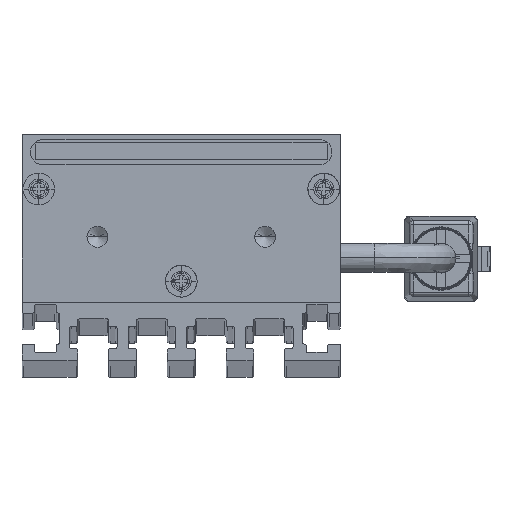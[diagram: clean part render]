
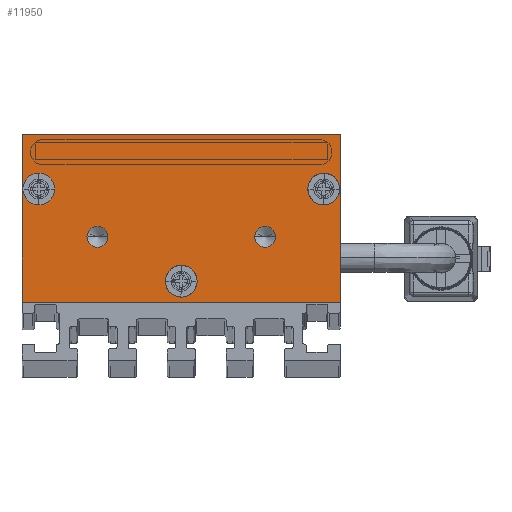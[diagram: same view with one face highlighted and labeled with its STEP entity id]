
A CAD part, top view. The second image highlights one B-rep face of the part: STEP entity #11950.
In plain terms, the highlighted planar face has unit normal (0, 0, 1) as drawn and (0, 0, -1) by its records, which use the part's own axes.
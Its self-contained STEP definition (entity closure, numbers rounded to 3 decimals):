
#245 = ORIENTED_EDGE ( 'NONE', *, *, #15260, .F. ) ;
#266 = VERTEX_POINT ( 'NONE', #8219 ) ;
#285 = CARTESIAN_POINT ( 'NONE',  ( -11.25, 7.8, -2.5 ) ) ;
#389 = LINE ( 'NONE', #15747, #1356 ) ;
#391 = ORIENTED_EDGE ( 'NONE', *, *, #2455, .F. ) ;
#440 = CARTESIAN_POINT ( 'NONE',  ( 10., 7.8, -2.5 ) ) ;
#502 = CIRCLE ( 'NONE', #13209, 1.9 ) ;
#533 = ORIENTED_EDGE ( 'NONE', *, *, #7452, .F. ) ;
#567 = CIRCLE ( 'NONE', #11936, 1.9 ) ;
#634 = DIRECTION ( 'NONE',  ( 0., 0., 1. ) ) ;
#649 = EDGE_CURVE ( 'NONE', #266, #15346, #567, .T. ) ;
#690 = CARTESIAN_POINT ( 'NONE',  ( -19., 20., -2.5 ) ) ;
#852 = CARTESIAN_POINT ( 'NONE',  ( 17., 13.5, -2.5 ) ) ;
#1356 = VECTOR ( 'NONE', #6674, 1000. ) ;
#1759 = DIRECTION ( 'NONE',  ( -1., 0., 0. ) ) ;
#1844 = EDGE_CURVE ( 'NONE', #8514, #5329, #5717, .T. ) ;
#2104 = FACE_BOUND ( 'NONE', #7031, .T. ) ;
#2136 = CIRCLE ( 'NONE', #6898, 1.9 ) ;
#2151 = ORIENTED_EDGE ( 'NONE', *, *, #1844, .F. ) ;
#2199 = DIRECTION ( 'NONE',  ( -1., 0., 0. ) ) ;
#2363 = CIRCLE ( 'NONE', #4727, 1.25 ) ;
#2396 = ORIENTED_EDGE ( 'NONE', *, *, #10332, .F. ) ;
#2428 = AXIS2_PLACEMENT_3D ( 'NONE', #2561, #6452, #10430 ) ;
#2455 = EDGE_CURVE ( 'NONE', #6748, #5830, #2136, .T. ) ;
#2561 = CARTESIAN_POINT ( 'NONE',  ( 0., 2.5, -2.5 ) ) ;
#2603 = CARTESIAN_POINT ( 'NONE',  ( 10., 7.8, -2.5 ) ) ;
#2803 = CARTESIAN_POINT ( 'NONE',  ( -17., 13.5, -2.5 ) ) ;
#2845 = VERTEX_POINT ( 'NONE', #11508 ) ;
#3152 = CARTESIAN_POINT ( 'NONE',  ( 19., 20., -2.5 ) ) ;
#3263 = DIRECTION ( 'NONE',  ( -1., 0., 0. ) ) ;
#3342 = DIRECTION ( 'NONE',  ( 0., -1., 0. ) ) ;
#3385 = AXIS2_PLACEMENT_3D ( 'NONE', #2603, #10063, #15316 ) ;
#4498 = FACE_BOUND ( 'NONE', #6939, .T. ) ;
#4600 = EDGE_CURVE ( 'NONE', #5329, #12344, #389, .T. ) ;
#4626 = ORIENTED_EDGE ( 'NONE', *, *, #12035, .F. ) ;
#4654 = FACE_BOUND ( 'NONE', #16115, .T. ) ;
#4711 = CIRCLE ( 'NONE', #5255, 1.9 ) ;
#4727 = AXIS2_PLACEMENT_3D ( 'NONE', #13572, #13642, #2199 ) ;
#5255 = AXIS2_PLACEMENT_3D ( 'NONE', #8952, #10202, #11535 ) ;
#5288 = EDGE_CURVE ( 'NONE', #15346, #266, #9320, .T. ) ;
#5329 = VERTEX_POINT ( 'NONE', #14024 ) ;
#5381 = EDGE_CURVE ( 'NONE', #5830, #6748, #5606, .T. ) ;
#5606 = CIRCLE ( 'NONE', #6400, 1.9 ) ;
#5716 = DIRECTION ( 'NONE',  ( 0., 0., -1. ) ) ;
#5717 = LINE ( 'NONE', #3152, #6350 ) ;
#5740 = DIRECTION ( 'NONE',  ( 1., 0., 0. ) ) ;
#5830 = VERTEX_POINT ( 'NONE', #8828 ) ;
#5882 = DIRECTION ( 'NONE',  ( 0., 0., -1. ) ) ;
#5886 = VERTEX_POINT ( 'NONE', #15827 ) ;
#6078 = CARTESIAN_POINT ( 'NONE',  ( -19., 0., -2.5 ) ) ;
#6157 = CARTESIAN_POINT ( 'NONE',  ( 15.1, 13.5, -2.5 ) ) ;
#6162 = EDGE_CURVE ( 'NONE', #10339, #5886, #16393, .T. ) ;
#6350 = VECTOR ( 'NONE', #8281, 1000. ) ;
#6394 = EDGE_CURVE ( 'NONE', #8675, #2845, #502, .T. ) ;
#6400 = AXIS2_PLACEMENT_3D ( 'NONE', #2803, #12931, #6669 ) ;
#6452 = DIRECTION ( 'NONE',  ( 0., 0., -1. ) ) ;
#6469 = EDGE_CURVE ( 'NONE', #10419, #8514, #10395, .T. ) ;
#6479 = CIRCLE ( 'NONE', #11786, 1.25 ) ;
#6666 = ORIENTED_EDGE ( 'NONE', *, *, #9480, .F. ) ;
#6669 = DIRECTION ( 'NONE',  ( -1., 0., 0. ) ) ;
#6674 = DIRECTION ( 'NONE',  ( -1., 0., 0. ) ) ;
#6700 = ORIENTED_EDGE ( 'NONE', *, *, #6162, .F. ) ;
#6748 = VERTEX_POINT ( 'NONE', #9629 ) ;
#6898 = AXIS2_PLACEMENT_3D ( 'NONE', #7522, #16357, #8856 ) ;
#6939 = EDGE_LOOP ( 'NONE', ( #533, #4626 ) ) ;
#7031 = EDGE_LOOP ( 'NONE', ( #6700, #6666 ) ) ;
#7063 = FACE_BOUND ( 'NONE', #12896, .T. ) ;
#7151 = CARTESIAN_POINT ( 'NONE',  ( 0., 0., -2.5 ) ) ;
#7452 = EDGE_CURVE ( 'NONE', #11036, #10183, #2363, .T. ) ;
#7486 = ORIENTED_EDGE ( 'NONE', *, *, #5288, .F. ) ;
#7522 = CARTESIAN_POINT ( 'NONE',  ( -17., 13.5, -2.5 ) ) ;
#7809 = AXIS2_PLACEMENT_3D ( 'NONE', #8387, #10727, #3263 ) ;
#8114 = DIRECTION ( 'NONE',  ( 0., 0., -1. ) ) ;
#8219 = CARTESIAN_POINT ( 'NONE',  ( -1.9, 2.5, -2.5 ) ) ;
#8281 = DIRECTION ( 'NONE',  ( 0., 1., 0. ) ) ;
#8387 = CARTESIAN_POINT ( 'NONE',  ( -10., 7.8, -2.5 ) ) ;
#8397 = ORIENTED_EDGE ( 'NONE', *, *, #6469, .F. ) ;
#8514 = VERTEX_POINT ( 'NONE', #9027 ) ;
#8675 = VERTEX_POINT ( 'NONE', #6157 ) ;
#8682 = VECTOR ( 'NONE', #8808, 1000. ) ;
#8722 = CARTESIAN_POINT ( 'NONE',  ( -19., 20., -2.5 ) ) ;
#8808 = DIRECTION ( 'NONE',  ( 1., 0., 0. ) ) ;
#8828 = CARTESIAN_POINT ( 'NONE',  ( -18.9, 13.5, -2.5 ) ) ;
#8856 = DIRECTION ( 'NONE',  ( -1., 0., 0. ) ) ;
#8952 = CARTESIAN_POINT ( 'NONE',  ( 17., 13.5, -2.5 ) ) ;
#9027 = CARTESIAN_POINT ( 'NONE',  ( 19., 0., -2.5 ) ) ;
#9320 = CIRCLE ( 'NONE', #2428, 1.9 ) ;
#9480 = EDGE_CURVE ( 'NONE', #5886, #10339, #6479, .T. ) ;
#9564 = FACE_OUTER_BOUND ( 'NONE', #15662, .T. ) ;
#9629 = CARTESIAN_POINT ( 'NONE',  ( -15.1, 13.5, -2.5 ) ) ;
#10063 = DIRECTION ( 'NONE',  ( 0., 0., -1. ) ) ;
#10183 = VERTEX_POINT ( 'NONE', #11328 ) ;
#10202 = DIRECTION ( 'NONE',  ( 0., 0., -1. ) ) ;
#10238 = ORIENTED_EDGE ( 'NONE', *, *, #6394, .F. ) ;
#10332 = EDGE_CURVE ( 'NONE', #12344, #10419, #16060, .T. ) ;
#10339 = VERTEX_POINT ( 'NONE', #14963 ) ;
#10395 = LINE ( 'NONE', #15482, #8682 ) ;
#10419 = VERTEX_POINT ( 'NONE', #6078 ) ;
#10430 = DIRECTION ( 'NONE',  ( -1., 0., 0. ) ) ;
#10727 = DIRECTION ( 'NONE',  ( 0., 0., -1. ) ) ;
#10949 = DIRECTION ( 'NONE',  ( -1., 0., 0. ) ) ;
#11036 = VERTEX_POINT ( 'NONE', #285 ) ;
#11328 = CARTESIAN_POINT ( 'NONE',  ( -8.75, 7.8, -2.5 ) ) ;
#11508 = CARTESIAN_POINT ( 'NONE',  ( 18.9, 13.5, -2.5 ) ) ;
#11535 = DIRECTION ( 'NONE',  ( -1., 0., 0. ) ) ;
#11786 = AXIS2_PLACEMENT_3D ( 'NONE', #440, #5716, #14703 ) ;
#11936 = AXIS2_PLACEMENT_3D ( 'NONE', #15623, #8114, #1759 ) ;
#11950 = ADVANCED_FACE ( 'NONE', ( #4654, #14416, #7063, #2104, #4498, #9564 ), #14656, .F. ) ;
#12011 = ORIENTED_EDGE ( 'NONE', *, *, #4600, .F. ) ;
#12035 = EDGE_CURVE ( 'NONE', #10183, #11036, #14981, .T. ) ;
#12344 = VERTEX_POINT ( 'NONE', #690 ) ;
#12896 = EDGE_LOOP ( 'NONE', ( #16390, #391 ) ) ;
#12931 = DIRECTION ( 'NONE',  ( 0., 0., -1. ) ) ;
#13146 = VECTOR ( 'NONE', #3342, 1000. ) ;
#13209 = AXIS2_PLACEMENT_3D ( 'NONE', #852, #5882, #10949 ) ;
#13572 = CARTESIAN_POINT ( 'NONE',  ( -10., 7.8, -2.5 ) ) ;
#13642 = DIRECTION ( 'NONE',  ( 0., 0., -1. ) ) ;
#14024 = CARTESIAN_POINT ( 'NONE',  ( 19., 20., -2.5 ) ) ;
#14416 = FACE_BOUND ( 'NONE', #14486, .T. ) ;
#14486 = EDGE_LOOP ( 'NONE', ( #15423, #7486 ) ) ;
#14656 = PLANE ( 'NONE',  #14995 ) ;
#14703 = DIRECTION ( 'NONE',  ( -1., 0., 0. ) ) ;
#14963 = CARTESIAN_POINT ( 'NONE',  ( 8.75, 7.8, -2.5 ) ) ;
#14981 = CIRCLE ( 'NONE', #7809, 1.25 ) ;
#14995 = AXIS2_PLACEMENT_3D ( 'NONE', #7151, #634, #5740 ) ;
#15030 = CARTESIAN_POINT ( 'NONE',  ( 1.9, 2.5, -2.5 ) ) ;
#15260 = EDGE_CURVE ( 'NONE', #2845, #8675, #4711, .T. ) ;
#15316 = DIRECTION ( 'NONE',  ( -1., 0., 0. ) ) ;
#15346 = VERTEX_POINT ( 'NONE', #15030 ) ;
#15423 = ORIENTED_EDGE ( 'NONE', *, *, #649, .F. ) ;
#15482 = CARTESIAN_POINT ( 'NONE',  ( -19., 0., -2.5 ) ) ;
#15623 = CARTESIAN_POINT ( 'NONE',  ( 0., 2.5, -2.5 ) ) ;
#15662 = EDGE_LOOP ( 'NONE', ( #2396, #12011, #2151, #8397 ) ) ;
#15747 = CARTESIAN_POINT ( 'NONE',  ( -19., 20., -2.5 ) ) ;
#15827 = CARTESIAN_POINT ( 'NONE',  ( 11.25, 7.8, -2.5 ) ) ;
#16060 = LINE ( 'NONE', #8722, #13146 ) ;
#16115 = EDGE_LOOP ( 'NONE', ( #10238, #245 ) ) ;
#16357 = DIRECTION ( 'NONE',  ( 0., 0., -1. ) ) ;
#16390 = ORIENTED_EDGE ( 'NONE', *, *, #5381, .F. ) ;
#16393 = CIRCLE ( 'NONE', #3385, 1.25 ) ;
